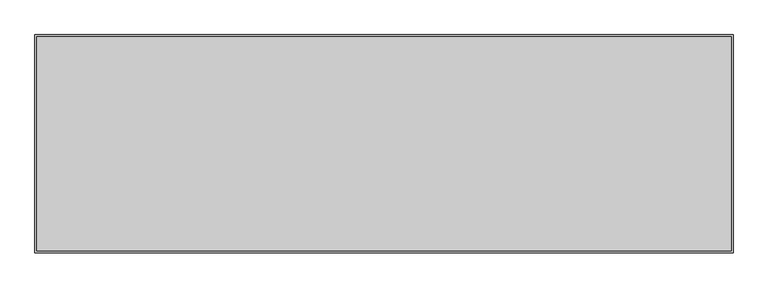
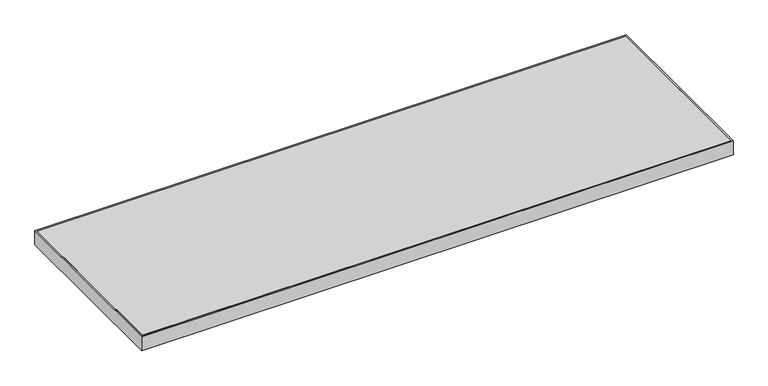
"""IFC4 building model written with IfcOpenShell, lengths in millimetres: furniture geometry, Steelcase - Universal Storage - Square Edge Top - Flush Front - Laminate : Common Top - 15D x 48W."""

from ifc_helpers import new_model, si_unit, frame, origin, place, context, project, spatial, polyline, outline, extrude, source, transform, mapped, element, save


def furniture_f9a71eb3(model_context):
    return source(origin(), model_context, "Body", "SweptSolid", [
        extrude(outline(polyline([(1216.1520001, -3.0479999), (1216.1520001, -377.9520001), (3.0479999, -377.9520001), (3.0479999, -3.0479999), (1216.1520001, -3.0479999)])), frame((0.0, 0.0, 680.72), z_axis=(0.0, 0.0, 1.0), x_axis=(1.0, 0.0, 0.0)), (0.0, 0.0, 1.0), 30.48),
        extrude(outline(polyline([(1219.2, 0.0), (1219.2, -381.0), (0.0, -381.0), (0.0, 0.0), (1219.2, 0.0)]), holes=[polyline([(1216.1520001, -3.0479999), (3.0479999, -3.0479999), (3.0479999, -377.9520001), (1216.1520001, -377.9520001), (1216.1520001, -3.0479999)])]), frame((0.0, 0.0, 680.72), z_axis=(0.0, 0.0, 1.0), x_axis=(1.0, 0.0, 0.0)), (0.0, 0.0, 1.0), 30.48),
    ])


if __name__ == "__main__":
    model = new_model("IFC4")
    model_context = context("Model", 3, world=origin())
    ifc_project = project(units=[si_unit("LENGTHUNIT", "METRE", prefix="MILLI")], contexts=[model_context])
    site = spatial("IfcSite", under=ifc_project)
    building = spatial("IfcBuilding", under=site)
    placement = place(None, origin())
    furniture_shape = furniture_f9a71eb3(model_context)
    element("IfcFurniture", 1, ObjectType="Steelcase - Universal Storage - Square Edge Top - Flush Front - Laminate : Common Top - 15D x 48W", at=placement, inside=building, context=model_context, shape_type="MappedRepresentation", body=[
        mapped(furniture_shape, transform((0.0, 0.0, 0.0), x_axis=(1.0, 0.0, 0.0), y_axis=(0.0, 1.0, 0.0), z_axis=(0.0, 0.0, 1.0))),
    ])
    save(model, "model.ifc")
